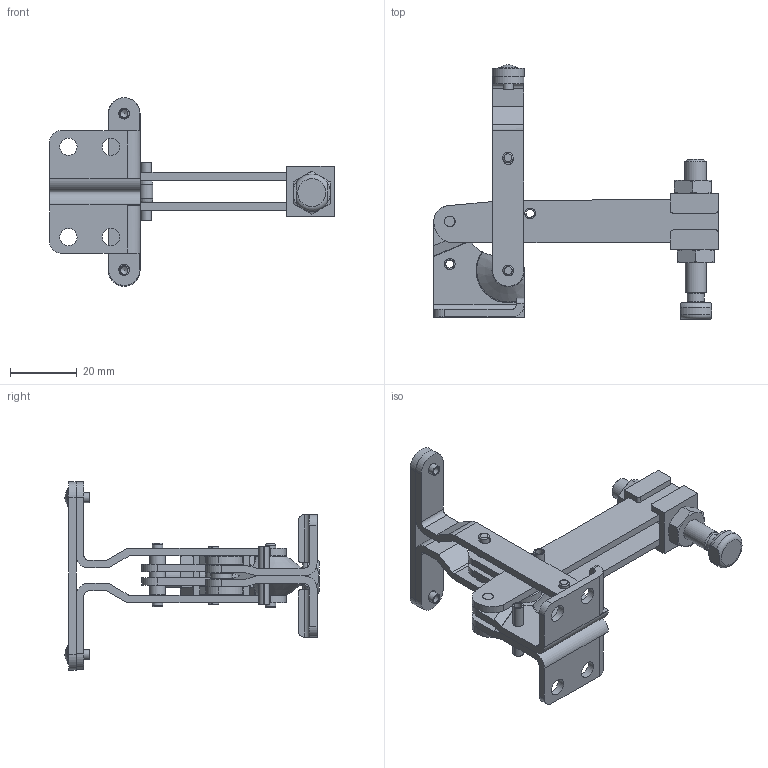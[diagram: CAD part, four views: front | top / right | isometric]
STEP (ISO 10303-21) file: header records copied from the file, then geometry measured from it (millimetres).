
FILE_DESCRIPTION(/* description */ (''),/* implementation_level */ '2;1');
FILE_NAME(/* name */ 'C:\Users\Nick\Desktop\t-100\3D\t-100.stp',/* time_stamp */ '2015-10-06T12:31:28-04:00',/* author */ ('Nick'),/* organization */ (''),/* preprocessor_version */ 'ST-DEVELOPER v16.1',/* originating_system */ 'AutoCAD Mechanical',/* authorisation */ '');
FILE_SCHEMA (('AUTOMOTIVE_DESIGN { 1 0 10303 214 3 1 1 }'));
Length unit declared in the file: inch
Products named in the file (1): Product
Bounding box: 84.95 x 76.03 x 56.4 mm (x, y, z)
Volume: 19227.5 mm3; surface area: 21989.7 mm2
Topology: 22 solids, 22 shells, 337 faces, 801 edges, 522 vertices
Faces by surface type: plane 155, cylinder 122, cone 39, torus 16, bspline 4, sphere 1
Full cylindrical faces by diameter (mm): 2.286 x2, 3.048 x2, 3.099 x8, 3.175 x1, 3.2 x2, 3.251 x10, 3.353 x1, 4.674 x4, 4.75 x2, 4.775 x2, 4.826 x8, 4.978 x2, 5.156 x5, 6.35 x3, 6.756 x2
Entity records: 9599 total; most frequent: CARTESIAN_POINT 1970, DIRECTION 1612, ORIENTED_EDGE 1426, EDGE_CURVE 713, AXIS2_PLACEMENT_3D 649, VERTEX_POINT 509, EDGE_LOOP 490, FACE_OUTER_BOUND 337
